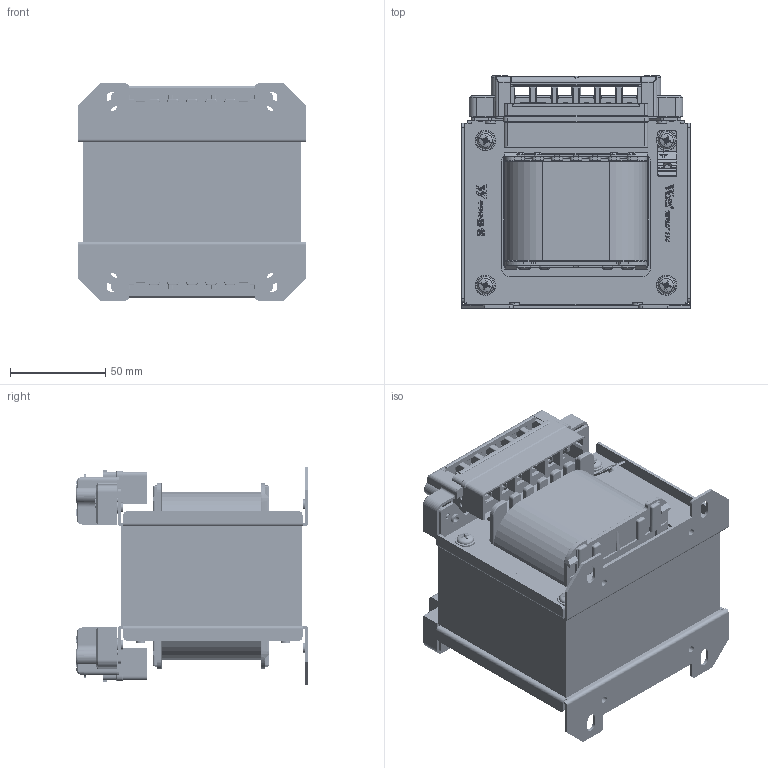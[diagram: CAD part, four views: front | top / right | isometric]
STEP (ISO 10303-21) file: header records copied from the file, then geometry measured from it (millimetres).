
FILE_DESCRIPTION (( 'STEP AP214' ), '1' );
FILE_NAME ('UL TRANS Ass''Y_1P-200VA_rev.0.STEP', '2018-10-16T10:43:20', ( 'Registered User' ), ( 'Microsoft Corporation' ), 'SwSTEP 2.0', 'SolidWorks 2018', '' );
FILE_SCHEMA (( 'AUTOMOTIVE_DESIGN' ));
Length unit declared in the file: millimetre
Products named in the file (14): M5-STS-FLANGE NUT-6050161507_P00; WBS)5x63_P00; TGI-114CV_R01_遢醴幗 114; TRANS 300VA COIL; TRANS 300VA EI CORE_P00; TRANS BOBBIN(114-52)_P03_P00; UL TRANS Ass''Y_1P-200VA_rev.0; UL TRANS 1P 200VA BARRIER_P01; 105 欽濠渠 ASS''Y; 105 欽濠渠 TERMINAL; 105欽濠渠 寰瞪COVER; 105欽濠渠 癱貲COVER; 105欽濠渠; N-10mm蕾雖欽濠
Assembly tree (29 placements, depth 3):
  UL TRANS Ass''Y_1P-200VA_rev.0
    TRANS BOBBIN(114-52)_P03_P00
    TRANS 300VA EI CORE_P00
    TRANS 300VA COIL
    TGI-114CV_R01_遢醴幗 114  x2
    WBS)5x63_P00  x4
    M5-STS-FLANGE NUT-6050161507_P00  x4
    N-10mm蕾雖欽濠
    105 欽濠渠 ASS''Y  x2
      105欽濠渠
      105欽濠渠 癱貲COVER
      105欽濠渠 寰瞪COVER
      105 欽濠渠 TERMINAL
    UL TRANS 1P 200VA BARRIER_P01  x4
Bounding box: 120 x 122 x 114 mm (x, y, z)
Volume: 791374.1 mm3; surface area: 275158.6 mm2
Topology: 36 solids, 36 shells, 7616 faces, 20156 edges, 12876 vertices
Faces by surface type: plane 5010, cylinder 1576, bspline 560, torus 230, cone 128, sphere 112
Entity records: 124867 total; most frequent: CARTESIAN_POINT 34527, ORIENTED_EDGE 19400, DIRECTION 17281, EDGE_CURVE 9700, VECTOR 7339, LINE 7339, VERTEX_POINT 6216, AXIS2_PLACEMENT_3D 4971
